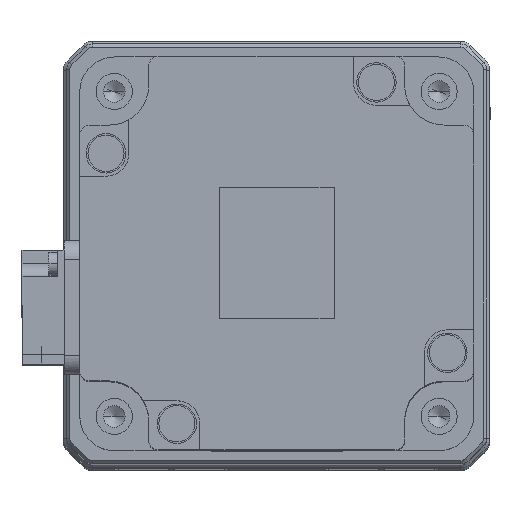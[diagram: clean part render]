
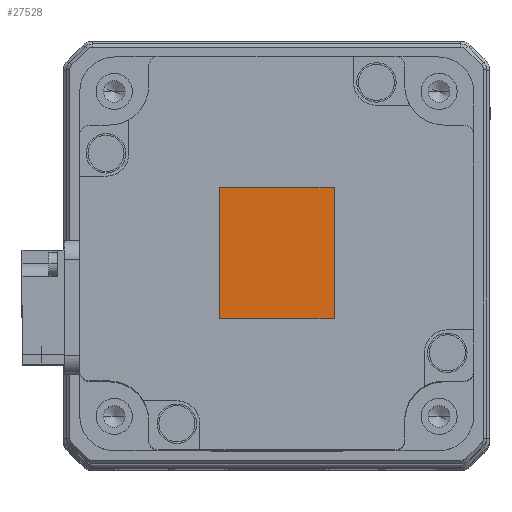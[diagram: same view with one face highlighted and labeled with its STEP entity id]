
A CAD part, top view. The second image highlights one B-rep face of the part: STEP entity #27528.
In plain terms, the highlighted planar face has unit normal (0, 0, 1) as drawn and (0, 0, -1) by its records, which use the part's own axes.
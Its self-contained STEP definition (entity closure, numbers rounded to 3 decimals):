
#145 = DIRECTION ( 'NONE',  ( -1., 0., 0. ) ) ;
#167 = VERTEX_POINT ( 'NONE', #14924 ) ;
#739 = CARTESIAN_POINT ( 'NONE',  ( 10., -8.75, -80.1 ) ) ;
#822 = ORIENTED_EDGE ( 'NONE', *, *, #6106, .T. ) ;
#1436 = DIRECTION ( 'NONE',  ( 0., 1., 0. ) ) ;
#3439 = VERTEX_POINT ( 'NONE', #27967 ) ;
#4151 = VECTOR ( 'NONE', #31411, 1000. ) ;
#4599 = FACE_OUTER_BOUND ( 'NONE', #33680, .T. ) ;
#6106 = EDGE_CURVE ( 'NONE', #3439, #18086, #13011, .T. ) ;
#7419 = ORIENTED_EDGE ( 'NONE', *, *, #29892, .T. ) ;
#12204 = VECTOR ( 'NONE', #16465, 1000. ) ;
#13011 = LINE ( 'NONE', #13858, #12204 ) ;
#13236 = LINE ( 'NONE', #30698, #33120 ) ;
#13858 = CARTESIAN_POINT ( 'NONE',  ( 10., 8.75, -80.1 ) ) ;
#14924 = CARTESIAN_POINT ( 'NONE',  ( -10., 8.75, -80.1 ) ) ;
#15692 = DIRECTION ( 'NONE',  ( 0., 0., -1. ) ) ;
#15768 = CARTESIAN_POINT ( 'NONE',  ( 10., -8.75, -80.1 ) ) ;
#16465 = DIRECTION ( 'NONE',  ( 0., -1., 0. ) ) ;
#17790 = EDGE_CURVE ( 'NONE', #167, #3439, #13236, .T. ) ;
#17792 = DIRECTION ( 'NONE',  ( 1., 0., 0. ) ) ;
#17908 = LINE ( 'NONE', #32519, #30860 ) ;
#17996 = LINE ( 'NONE', #15768, #4151 ) ;
#18086 = VERTEX_POINT ( 'NONE', #739 ) ;
#19393 = EDGE_CURVE ( 'NONE', #18086, #32147, #17996, .T. ) ;
#24317 = ORIENTED_EDGE ( 'NONE', *, *, #17790, .T. ) ;
#27408 = ORIENTED_EDGE ( 'NONE', *, *, #19393, .T. ) ;
#27528 = ADVANCED_FACE ( 'NONE', ( #4599 ), #28515, .T. ) ;
#27967 = CARTESIAN_POINT ( 'NONE',  ( 10., 8.75, -80.1 ) ) ;
#28515 = PLANE ( 'NONE',  #31306 ) ;
#29431 = CARTESIAN_POINT ( 'NONE',  ( -10., -8.75, -80.1 ) ) ;
#29892 = EDGE_CURVE ( 'NONE', #32147, #167, #17908, .T. ) ;
#30698 = CARTESIAN_POINT ( 'NONE',  ( 10., 8.75, -80.1 ) ) ;
#30860 = VECTOR ( 'NONE', #1436, 1000. ) ;
#31232 = CARTESIAN_POINT ( 'NONE',  ( 10., -8.75, -80.1 ) ) ;
#31306 = AXIS2_PLACEMENT_3D ( 'NONE', #31232, #15692, #145 ) ;
#31411 = DIRECTION ( 'NONE',  ( -1., 0., 0. ) ) ;
#32147 = VERTEX_POINT ( 'NONE', #29431 ) ;
#32519 = CARTESIAN_POINT ( 'NONE',  ( -10., 8.75, -80.1 ) ) ;
#33120 = VECTOR ( 'NONE', #17792, 1000. ) ;
#33680 = EDGE_LOOP ( 'NONE', ( #7419, #24317, #822, #27408 ) ) ;
